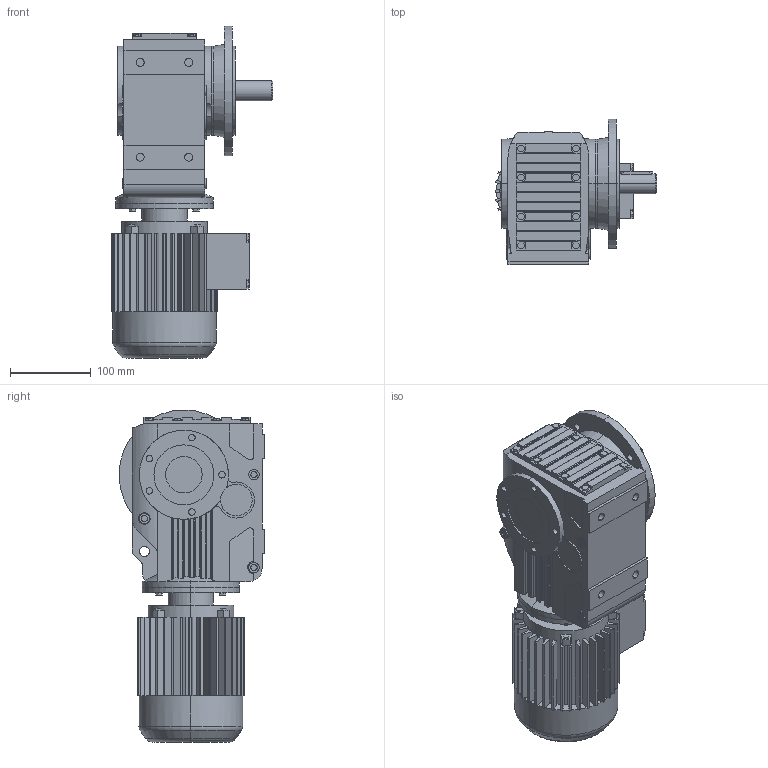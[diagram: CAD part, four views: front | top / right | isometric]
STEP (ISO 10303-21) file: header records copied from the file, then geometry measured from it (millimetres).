
FILE_DESCRIPTION(('Open CASCADE Model'),'2;1');
FILE_NAME('Open CASCADE Shape Model','2018-08-09T16:46:39',('Author'),( 'Open CASCADE'),'Open CASCADE STEP processor 6.3','Open CASCADE 6.3' ,'Unknown');
FILE_SCHEMA(('AUTOMOTIVE_DESIGN_CC2 { 1 2 10303 214 -1 1 5 4 }'));
Length unit declared in the file: millimetre
Products named in the file (5): 49_KF37DR63-A; KA37‵107_37.step; 萇儂_120-DR63-191-246-132-105.step; す瑩妗陑粣K_37.step; 楊擘K_37.step
Assembly tree (4 placements, depth 2):
  49_KF37DR63-A
    KA37‵107_37.step
    萇儂_120-DR63-191-246-132-105.step
    す瑩妗陑粣K_37.step
    楊擘K_37.step
Bounding box: 200 x 180 x 410 mm (x, y, z)
Volume: 5660426 mm3; surface area: 442248.8 mm2
Topology: 4 solids, 4 shells, 863 faces, 2248 edges, 1460 vertices
Faces by surface type: plane 554, cylinder 289, cone 16, torus 4
Entity records: 64336 total; most frequent: CARTESIAN_POINT 22234, DIRECTION 7036, ORIENTED_EDGE 4492, PCURVE 4492, DEFINITIONAL_REPRESENTATION 4492, LINE 3621, VECTOR 3621, EDGE_CURVE 2246
